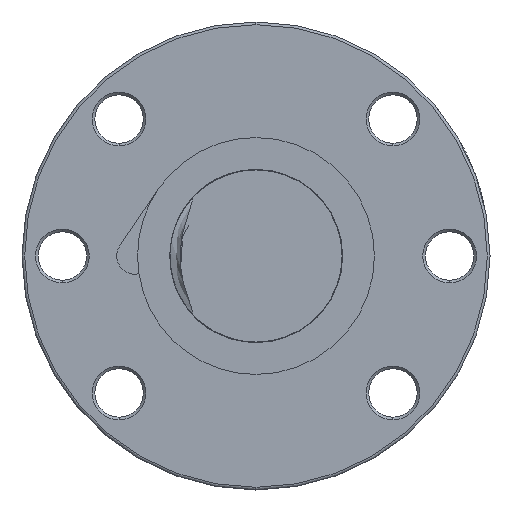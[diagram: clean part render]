
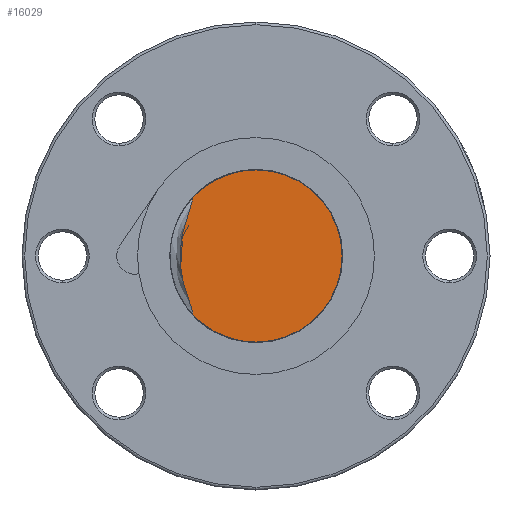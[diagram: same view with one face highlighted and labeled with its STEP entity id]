
A CAD part, left-side view. The second image highlights one B-rep face of the part: STEP entity #16029.
In plain terms, the highlighted planar face has unit normal (-1, 0, 0).
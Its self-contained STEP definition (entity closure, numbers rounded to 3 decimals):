
#9790 = CARTESIAN_POINT ( 'NONE',  ( -240., 0., 16. ) ) ;
#9791 = CARTESIAN_POINT ( 'NONE',  ( -240., 11.759, 10.85 ) ) ;
#9792 = DIRECTION ( 'NONE',  ( 0., 1., 0. ) ) ;
#9793 = DIRECTION ( 'NONE',  ( 1., 0., 0. ) ) ;
#9794 = AXIS2_PLACEMENT_3D ( 'NONE', #9799, #9793, #9792 ) ;
#9795 = CIRCLE ( 'NONE', #9794, 16. ) ;
#9799 = CARTESIAN_POINT ( 'NONE',  ( -240., 0., 0. ) ) ;
#9805 = CARTESIAN_POINT ( 'NONE',  ( -240., 0., -16. ) ) ;
#10592 = DIRECTION ( 'NONE',  ( 0., 1., 0. ) ) ;
#10593 = DIRECTION ( 'NONE',  ( 1., 0., 0. ) ) ;
#10594 = CARTESIAN_POINT ( 'NONE',  ( -240., 0., 0. ) ) ;
#10595 = AXIS2_PLACEMENT_3D ( 'NONE', #10594, #10593, #10592 ) ;
#10596 = CIRCLE ( 'NONE', #10595, 16. ) ;
#10642 = CARTESIAN_POINT ( 'NONE',  ( -240., 11.759, -10.85 ) ) ;
#15495 = EDGE_CURVE ( 'NONE', #15497, #15498, #9795, .T. ) ;
#15497 = VERTEX_POINT ( 'NONE', #9791 ) ;
#15498 = VERTEX_POINT ( 'NONE', #9790 ) ;
#15512 = VERTEX_POINT ( 'NONE', #9805 ) ;
#15865 = VERTEX_POINT ( 'NONE', #10642 ) ;
#15875 = EDGE_CURVE ( 'NONE', #15512, #15865, #10596, .T. ) ;
#16008 = ORIENTED_EDGE ( 'NONE', *, *, #15495, .F. ) ;
#16009 = ORIENTED_EDGE ( 'NONE', *, *, #16010, .T. ) ;
#16010 = EDGE_CURVE ( 'NONE', #15497, #15865, #23721, .T. ) ;
#16011 = ORIENTED_EDGE ( 'NONE', *, *, #15875, .F. ) ;
#16012 = ORIENTED_EDGE ( 'NONE', *, *, #16173, .F. ) ;
#16029 = ADVANCED_FACE ( 'NONE', ( #24278 ), #24277, .F. ) ;
#16030 = EDGE_LOOP ( 'NONE', ( #16008, #16009, #16011, #16012 ) ) ;
#16173 = EDGE_CURVE ( 'NONE', #15498, #15512, #25289, .T. ) ;
#23449 = CARTESIAN_POINT ( 'NONE',  ( -240., 11.759, -10.85 ) ) ;
#23450 = CARTESIAN_POINT ( 'NONE',  ( -240., 11.759, -10.731 ) ) ;
#23461 = CARTESIAN_POINT ( 'NONE',  ( -240., 11.772, -10.613 ) ) ;
#23689 = CARTESIAN_POINT ( 'NONE',  ( -240., 11.81, -10.381 ) ) ;
#23690 = CARTESIAN_POINT ( 'NONE',  ( -240., 11.835, -10.268 ) ) ;
#23691 = CARTESIAN_POINT ( 'NONE',  ( -240., 11.918, -9.928 ) ) ;
#23692 = CARTESIAN_POINT ( 'NONE',  ( -240., 11.986, -9.706 ) ) ;
#23693 = CARTESIAN_POINT ( 'NONE',  ( -240., 12.202, -9.042 ) ) ;
#23694 = CARTESIAN_POINT ( 'NONE',  ( -240., 12.361, -8.604 ) ) ;
#23695 = CARTESIAN_POINT ( 'NONE',  ( -240., 12.826, -7.285 ) ) ;
#23696 = CARTESIAN_POINT ( 'NONE',  ( -240., 13.121, -6.403 ) ) ;
#23697 = CARTESIAN_POINT ( 'NONE',  ( -240., 13.605, -4.611 ) ) ;
#23698 = CARTESIAN_POINT ( 'NONE',  ( -240., 13.796, -3.703 ) ) ;
#23699 = CARTESIAN_POINT ( 'NONE',  ( -240., 13.989, -2.318 ) ) ;
#23700 = CARTESIAN_POINT ( 'NONE',  ( -240., 14.037, -1.851 ) ) ;
#23701 = CARTESIAN_POINT ( 'NONE',  ( -240., 14.101, -0.922 ) ) ;
#23702 = CARTESIAN_POINT ( 'NONE',  ( -240., 14.117, -0.458 ) ) ;
#23703 = CARTESIAN_POINT ( 'NONE',  ( -240., 14.117, 0.929 ) ) ;
#23704 = CARTESIAN_POINT ( 'NONE',  ( -240., 14.053, 1.85 ) ) ;
#23705 = CARTESIAN_POINT ( 'NONE',  ( -240., 13.863, 3.223 ) ) ;
#23706 = CARTESIAN_POINT ( 'NONE',  ( -240., 13.784, 3.68 ) ) ;
#23707 = CARTESIAN_POINT ( 'NONE',  ( -240., 13.596, 4.591 ) ) ;
#23708 = CARTESIAN_POINT ( 'NONE',  ( -240., 13.487, 5.047 ) ) ;
#23709 = CARTESIAN_POINT ( 'NONE',  ( -240., 13.122, 6.4 ) ) ;
#23710 = CARTESIAN_POINT ( 'NONE',  ( -240., 12.826, 7.285 ) ) ;
#23711 = CARTESIAN_POINT ( 'NONE',  ( -240., 12.36, 8.606 ) ) ;
#23712 = CARTESIAN_POINT ( 'NONE',  ( -240., 12.201, 9.045 ) ) ;
#23713 = CARTESIAN_POINT ( 'NONE',  ( -240., 11.985, 9.711 ) ) ;
#23714 = CARTESIAN_POINT ( 'NONE',  ( -240., 11.917, 9.934 ) ) ;
#23715 = CARTESIAN_POINT ( 'NONE',  ( -240., 11.834, 10.272 ) ) ;
#23716 = CARTESIAN_POINT ( 'NONE',  ( -240., 11.809, 10.386 ) ) ;
#23717 = CARTESIAN_POINT ( 'NONE',  ( -240., 11.772, 10.615 ) ) ;
#23718 = CARTESIAN_POINT ( 'NONE',  ( -240., 11.759, 10.732 ) ) ;
#23719 = CARTESIAN_POINT ( 'NONE',  ( -240., 11.759, 10.85 ) ) ;
#23721 = B_SPLINE_CURVE_WITH_KNOTS ( 'NONE', 3,
 ( #23719, #23718, #23717, #23716, #23715, #23714, #23713, #23712, #23711, #23710, #23709, #23708, #23707, #23706, #23705, #23704, #23703, #23702, #23701, #23700, #23699, #23698, #23697, #23696, #23695, #23694, #23693, #23692, #23691, #23690, #23689, #23461, #23450, #23449 ),
 .UNSPECIFIED., .F., .F.,
 ( 4, 2, 2, 2, 2, 2, 2, 2, 2, 2, 2, 2, 2, 2, 2, 2, 4 ),
 ( 0.006, 0.006, 0.007, 0.007, 0.009, 0.011, 0.013, 0.014, 0.017, 0.018, 0.02, 0.022, 0.025, 0.026, 0.027, 0.028, 0.028 ),
 .UNSPECIFIED. ) ;
#24273 = DIRECTION ( 'NONE',  ( 0., 0., -1. ) ) ;
#24274 = DIRECTION ( 'NONE',  ( 1., 0., 0. ) ) ;
#24275 = CARTESIAN_POINT ( 'NONE',  ( -240., 0., 0. ) ) ;
#24276 = AXIS2_PLACEMENT_3D ( 'NONE', #24275, #24274, #24273 ) ;
#24277 = PLANE ( 'NONE',  #24276 ) ;
#24278 = FACE_OUTER_BOUND ( 'NONE', #16030, .T. ) ;
#25286 = DIRECTION ( 'NONE',  ( 0., 1., 0. ) ) ;
#25287 = DIRECTION ( 'NONE',  ( 1., 0., 0. ) ) ;
#25288 = AXIS2_PLACEMENT_3D ( 'NONE', #25294, #25287, #25286 ) ;
#25289 = CIRCLE ( 'NONE', #25288, 16. ) ;
#25294 = CARTESIAN_POINT ( 'NONE',  ( -240., 0., 0. ) ) ;
